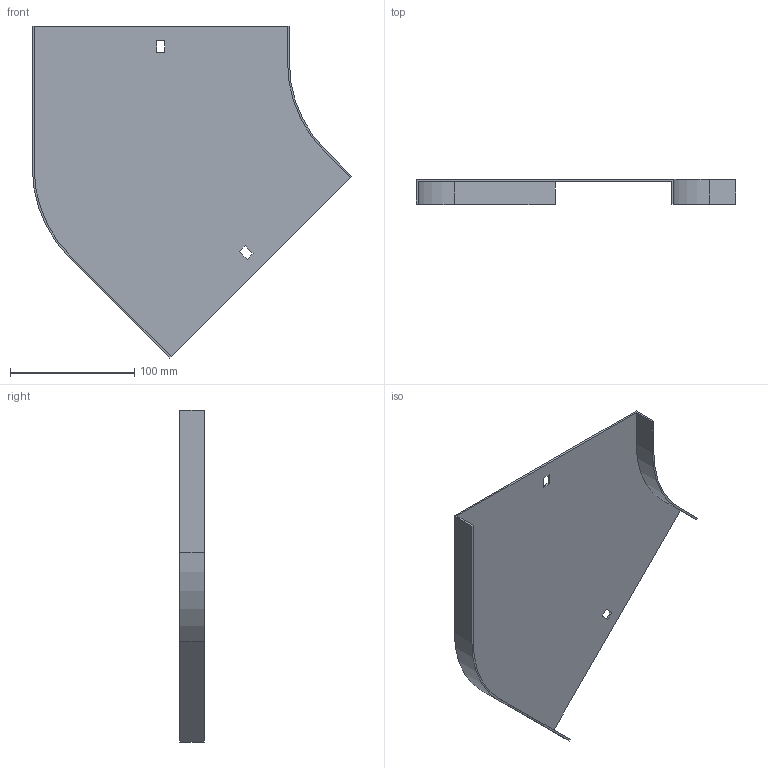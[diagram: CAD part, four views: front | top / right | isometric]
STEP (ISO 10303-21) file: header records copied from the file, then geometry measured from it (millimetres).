
FILE_DESCRIPTION (( 'STEP AP214' ), '1' );
FILE_NAME ('11G1P200.step', '2025-02-21T12:45:56', ( '' ), ( '' ), 'SwSTEP 2.0', 'SolidWorks 2023', '' );
FILE_SCHEMA (( 'AUTOMOTIVE_DESIGN' ));
Length unit declared in the file: millimetre
Products named in the file (1): 11G1P200
Bounding box: 257.06 x 20 x 267.23 mm (x, y, z)
Volume: 82773.6 mm3; surface area: 111858.9 mm2
Topology: 1 solids, 1 shells, 26 faces, 72 edges, 48 vertices
Faces by surface type: plane 22, cylinder 4
Entity records: 855 total; most frequent: CARTESIAN_POINT 147, ORIENTED_EDGE 144, DIRECTION 134, EDGE_CURVE 72, LINE 64, VECTOR 64, VERTEX_POINT 48, AXIS2_PLACEMENT_3D 35
